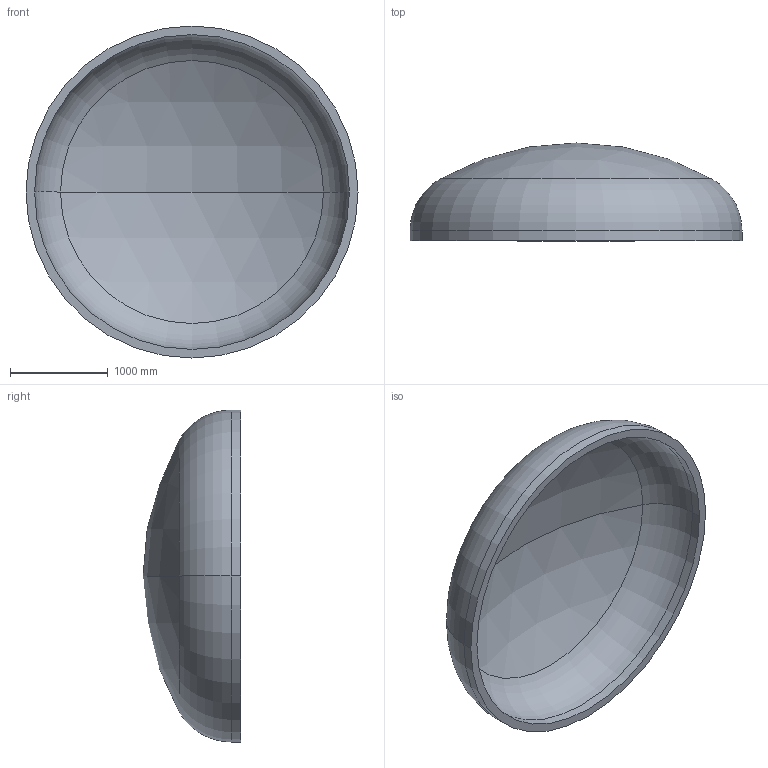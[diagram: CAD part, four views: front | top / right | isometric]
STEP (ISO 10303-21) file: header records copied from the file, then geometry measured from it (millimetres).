
FILE_DESCRIPTION (( 'STEP AP203' ), '1' );
FILE_NAME ('DIN 28013 Korbbogenform_-_Boden DIN 28013 - 3400 x 100 - I - s=88.step', '2016-07-01T19:48:30', ( '' ), ( '' ), 'SwSTEP 2.0', 'SolidWorks 2013', '' );
FILE_SCHEMA (( 'CONFIG_CONTROL_DESIGN' ));
Length unit declared in the file: millimetre
Products named in the file (1): DIN 28013 Korbbogenform_-_Boden DIN 28013 - 3400 x 100 - I - s=88
Bounding box: 3400 x 1001.05 x 3400 mm (x, y, z)
Volume: 1161787250.1 mm3; surface area: 27336101.8 mm2
Topology: 1 solids, 1 shells, 13 faces, 24 edges, 14 vertices
Faces by surface type: torus 4, cylinder 4, sphere 4, plane 1
Entity records: 407 total; most frequent: DIRECTION 72, CARTESIAN_POINT 52, ORIENTED_EDGE 48, AXIS2_PLACEMENT_3D 34, EDGE_CURVE 24, CIRCLE 20, EDGE_LOOP 14, VERTEX_POINT 14
